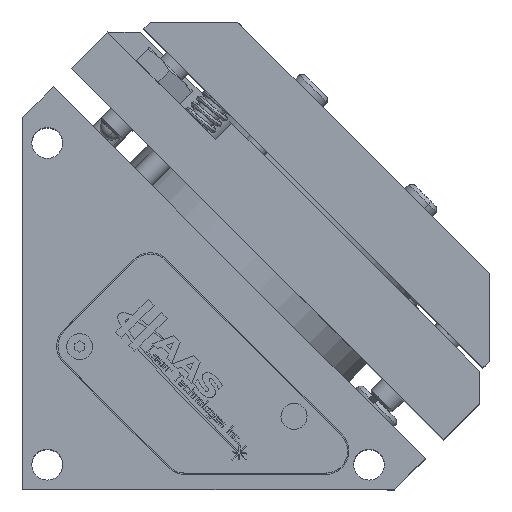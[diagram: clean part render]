
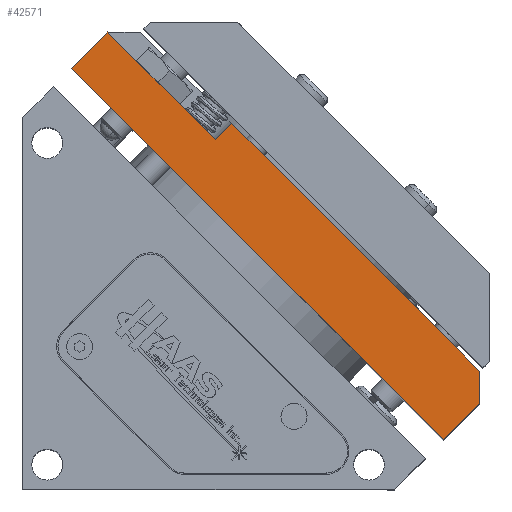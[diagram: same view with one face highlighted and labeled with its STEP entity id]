
A CAD part, top view. The second image highlights one B-rep face of the part: STEP entity #42571.
In plain terms, the highlighted planar face has unit normal (0, 0, 1).
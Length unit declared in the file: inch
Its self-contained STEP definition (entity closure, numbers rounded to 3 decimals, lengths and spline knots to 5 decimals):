
#654 = DIRECTION ( 'NONE',  ( 0.707, -0.707, 0. ) ) ;
#825 = CARTESIAN_POINT ( 'NONE',  ( 1.55972, 2.82367, 1.469 ) ) ;
#868 = VERTEX_POINT ( 'NONE', #4861 ) ;
#1315 = EDGE_CURVE ( 'Defeatured_10_10+Defeatured_10_1+Defeatured_10_11+Defeatured_10_5', #32664, #31916, #14515, .T. ) ;
#4861 = CARTESIAN_POINT ( 'NONE',  ( 3.69217, 0.69121, 1.469 ) ) ;
#8718 = EDGE_CURVE ( 'Defeatured_10_2+Defeatured_10_1+Defeatured_10_0+Defeatured_10_11', #36738, #37888, #45799, .T. ) ;
#8972 = CARTESIAN_POINT ( 'NONE',  ( 0.39529, 3.40473, 1.469 ) ) ;
#9346 = ORIENTED_EDGE ( 'NONE', *, *, #1315, .F. ) ;
#9618 = ORIENTED_EDGE ( 'NONE', *, *, #37096, .F. ) ;
#9814 = CARTESIAN_POINT ( 'NONE',  ( 0.39529, 3.40473, 1.469 ) ) ;
#12731 = DIRECTION ( 'NONE',  ( 0., 0., 1. ) ) ;
#12867 = ORIENTED_EDGE ( 'NONE', *, *, #15125, .T. ) ;
#14150 = VECTOR ( 'NONE', #18016, 39.37008 ) ;
#14515 = LINE ( 'NONE', #825, #48027 ) ;
#14787 = ORIENTED_EDGE ( 'NONE', *, *, #8718, .F. ) ;
#15125 = EDGE_CURVE ( 'Defeatured_10_1+Defeatured_10_16+Defeatured_10_4+Defeatured_10_5', #868, #42061, #35606, .T. ) ;
#17310 = EDGE_CURVE ( 'Defeatured_10_1+Defeatured_10_0+Defeatured_10_2+Defeatured_10_4', #36738, #33750, #47128, .T. ) ;
#17810 = CARTESIAN_POINT ( 'NONE',  ( 0.39529, 3.40473, 1.469 ) ) ;
#18016 = DIRECTION ( 'NONE',  ( 0.707, -0.707, 0. ) ) ;
#19634 = VECTOR ( 'NONE', #37076, 39.37008 ) ;
#20118 = PLANE ( 'NONE',  #41092 ) ;
#21612 = CARTESIAN_POINT ( 'NONE',  ( 0.81955, 3.829, 1.469 ) ) ;
#21746 = EDGE_LOOP ( 'NONE', ( #40141, #12867, #48583, #9346, #9618, #14787, #25831 ) ) ;
#22111 = LINE ( 'NONE', #41361, #14150 ) ;
#22771 = CARTESIAN_POINT ( 'NONE',  ( 1.55972, 2.82367, 1.469 ) ) ;
#24575 = LINE ( 'NONE', #21612, #32500 ) ;
#25831 = ORIENTED_EDGE ( 'NONE', *, *, #17310, .T. ) ;
#25852 = VECTOR ( 'NONE', #34353, 39.37008 ) ;
#27872 = FACE_OUTER_BOUND ( 'NONE', #21746, .T. ) ;
#28552 = LINE ( 'NONE', #30317, #46197 ) ;
#29905 = CARTESIAN_POINT ( 'NONE',  ( 3.69217, 0.95638, 1.469 ) ) ;
#30317 = CARTESIAN_POINT ( 'NONE',  ( 3.40049, 0.39953, 1.469 ) ) ;
#31916 = VERTEX_POINT ( 'NONE', #35870 ) ;
#32500 = VECTOR ( 'NONE', #48648, 39.37008 ) ;
#32664 = VERTEX_POINT ( 'NONE', #22771 ) ;
#33366 = DIRECTION ( 'NONE',  ( 0.707, -0.707, 0. ) ) ;
#33708 = VECTOR ( 'NONE', #33366, 39.37008 ) ;
#33750 = VERTEX_POINT ( 'NONE', #41296 ) ;
#34353 = DIRECTION ( 'NONE',  ( 0., 1., 0. ) ) ;
#35606 = LINE ( 'NONE', #37777, #25852 ) ;
#35870 = CARTESIAN_POINT ( 'NONE',  ( 1.6923, 2.95625, 1.469 ) ) ;
#36738 = VERTEX_POINT ( 'NONE', #8972 ) ;
#36796 = EDGE_CURVE ( 'Defeatured_10_5+Defeatured_10_1+Defeatured_10_10+Defeatured_10_16', #31916, #42061, #24575, .T. ) ;
#37076 = DIRECTION ( 'NONE',  ( 0.707, 0.707, 0. ) ) ;
#37096 = EDGE_CURVE ( 'Defeatured_10_11+Defeatured_10_1+Defeatured_10_2+Defeatured_10_10', #37888, #32664, #22111, .T. ) ;
#37777 = CARTESIAN_POINT ( 'NONE',  ( 3.69217, 3.40473, 1.469 ) ) ;
#37888 = VERTEX_POINT ( 'NONE', #45784 ) ;
#39534 = CARTESIAN_POINT ( 'NONE',  ( 0.39529, 3.40473, 1.469 ) ) ;
#40141 = ORIENTED_EDGE ( 'NONE', *, *, #41140, .T. ) ;
#41092 = AXIS2_PLACEMENT_3D ( 'NONE', #39534, #12731, #654 ) ;
#41140 = EDGE_CURVE ( 'Defeatured_10_1+Defeatured_10_4+Defeatured_10_0+Defeatured_10_16', #33750, #868, #28552, .T. ) ;
#41296 = CARTESIAN_POINT ( 'NONE',  ( 3.40049, 0.39953, 1.469 ) ) ;
#41361 = CARTESIAN_POINT ( 'NONE',  ( 0.68697, 3.69642, 1.469 ) ) ;
#41377 = DIRECTION ( 'NONE',  ( 0.707, 0.707, 0. ) ) ;
#42061 = VERTEX_POINT ( 'NONE', #29905 ) ;
#42571 = ADVANCED_FACE ( 'Defeatured_10_1', ( #27872 ), #20118, .T. ) ;
#43442 = DIRECTION ( 'NONE',  ( 0.707, 0.707, 0. ) ) ;
#45784 = CARTESIAN_POINT ( 'NONE',  ( 0.68697, 3.69642, 1.469 ) ) ;
#45799 = LINE ( 'NONE', #17810, #19634 ) ;
#46197 = VECTOR ( 'NONE', #41377, 39.37008 ) ;
#47128 = LINE ( 'NONE', #9814, #33708 ) ;
#48027 = VECTOR ( 'NONE', #43442, 39.37008 ) ;
#48583 = ORIENTED_EDGE ( 'NONE', *, *, #36796, .F. ) ;
#48648 = DIRECTION ( 'NONE',  ( 0.707, -0.707, 0. ) ) ;
